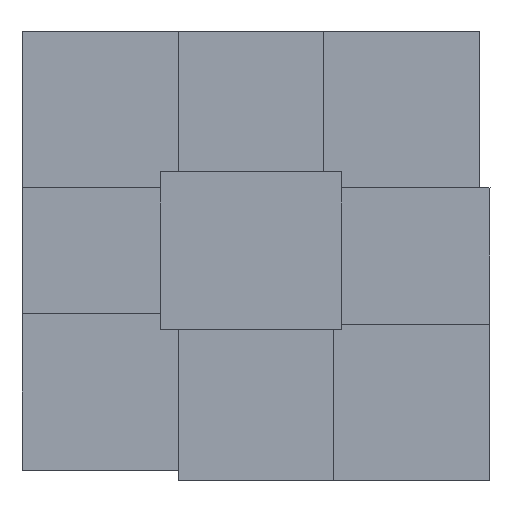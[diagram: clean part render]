
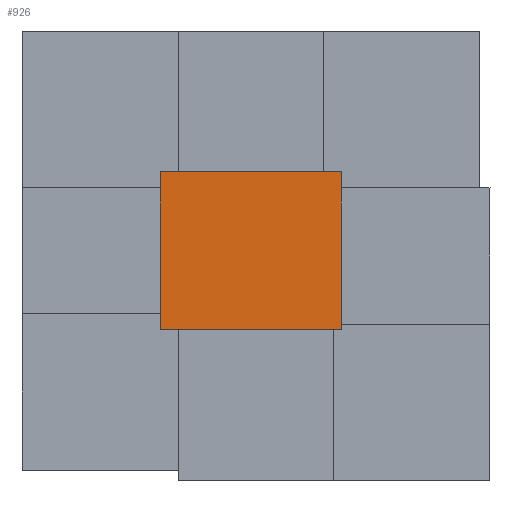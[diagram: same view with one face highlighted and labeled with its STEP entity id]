
A CAD part, left-side view. The second image highlights one B-rep face of the part: STEP entity #926.
In plain terms, the highlighted planar face has unit normal (-1, 0, 0).
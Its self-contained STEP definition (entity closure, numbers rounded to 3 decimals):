
#808=CARTESIAN_POINT('Line Origine',(0.,0.,50.5)) ;
#812=CARTESIAN_POINT('Vertex',(0.,0.,0.)) ;
#814=CARTESIAN_POINT('Vertex',(0.,0.,101.)) ;
#883=CARTESIAN_POINT('Vertex',(0.,116.,0.)) ;
#886=CARTESIAN_POINT('Line Origine',(0.,116.,50.5)) ;
#890=CARTESIAN_POINT('Vertex',(0.,116.,101.)) ;
#905=CARTESIAN_POINT('Axis2P3D Location',(0.,116.,0.)) ;
#910=CARTESIAN_POINT('Line Origine',(0.,58.,0.)) ;
#915=CARTESIAN_POINT('Line Origine',(0.,58.,101.)) ;
#809=DIRECTION('Vector Direction',(0.,0.,1.)) ;
#887=DIRECTION('Vector Direction',(0.,0.,1.)) ;
#906=DIRECTION('Axis2P3D Direction',(-1.,0.,0.)) ;
#907=DIRECTION('Axis2P3D XDirection',(0.,-1.,0.)) ;
#911=DIRECTION('Vector Direction',(0.,-1.,0.)) ;
#916=DIRECTION('Vector Direction',(0.,-1.,0.)) ;
#908=AXIS2_PLACEMENT_3D('Plane Axis2P3D',#905,#906,#907) ;
#921=ORIENTED_EDGE('',*,*,#892,.F.) ;
#922=ORIENTED_EDGE('',*,*,#914,.T.) ;
#923=ORIENTED_EDGE('',*,*,#816,.T.) ;
#924=ORIENTED_EDGE('',*,*,#919,.F.) ;
#810=VECTOR('Line Direction',#809,1.) ;
#888=VECTOR('Line Direction',#887,1.) ;
#912=VECTOR('Line Direction',#911,1.) ;
#917=VECTOR('Line Direction',#916,1.) ;
#926=ADVANCED_FACE('Body.2-molde-superior',(#925),#909,.T.) ;
#816=EDGE_CURVE('',#813,#815,#811,.T.) ;
#892=EDGE_CURVE('',#884,#891,#889,.T.) ;
#914=EDGE_CURVE('',#884,#813,#913,.T.) ;
#919=EDGE_CURVE('',#891,#815,#918,.T.) ;
#920=EDGE_LOOP('',(#921,#922,#923,#924)) ;
#925=FACE_OUTER_BOUND('',#920,.T.) ;
#811=LINE('Line',#808,#810) ;
#889=LINE('Line',#886,#888) ;
#913=LINE('Line',#910,#912) ;
#918=LINE('Line',#915,#917) ;
#909=PLANE('',#908) ;
#813=VERTEX_POINT('',#812) ;
#815=VERTEX_POINT('',#814) ;
#884=VERTEX_POINT('',#883) ;
#891=VERTEX_POINT('',#890) ;
